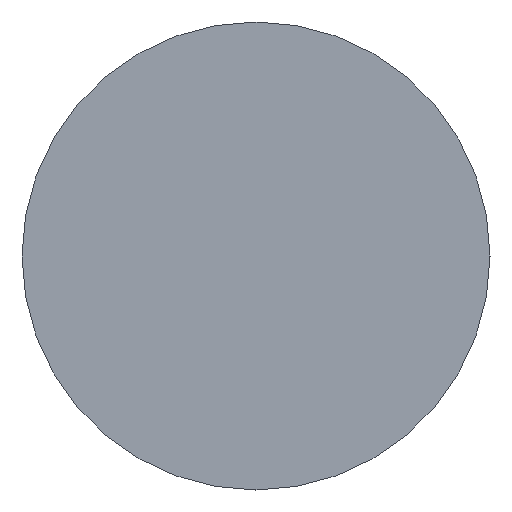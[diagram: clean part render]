
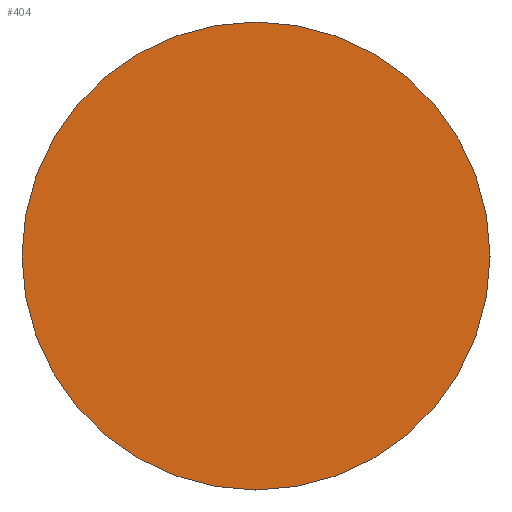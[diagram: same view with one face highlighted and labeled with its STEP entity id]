
A CAD part, left-side view. The second image highlights one B-rep face of the part: STEP entity #404.
In plain terms, the highlighted planar face has unit normal (-1, 0, 0).
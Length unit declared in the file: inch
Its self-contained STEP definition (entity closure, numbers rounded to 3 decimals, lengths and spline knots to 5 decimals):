
#22 = AXIS2_PLACEMENT_3D ( 'NONE', #374, #82, #208 ) ;
#34 = EDGE_CURVE ( 'NONE', #270, #272, #343, .T. ) ;
#82 = DIRECTION ( 'NONE',  ( -1., 0., 0. ) ) ;
#90 = PLANE ( 'NONE',  #242 ) ;
#117 = EDGE_CURVE ( 'NONE', #272, #270, #409, .T. ) ;
#143 = DIRECTION ( 'NONE',  ( -1., 0., 0. ) ) ;
#147 = ORIENTED_EDGE ( 'NONE', *, *, #117, .T. ) ;
#179 = EDGE_LOOP ( 'NONE', ( #200, #147 ) ) ;
#200 = ORIENTED_EDGE ( 'NONE', *, *, #34, .T. ) ;
#208 = DIRECTION ( 'NONE',  ( 0., 0., 1. ) ) ;
#209 = FACE_OUTER_BOUND ( 'NONE', #179, .T. ) ;
#221 = DIRECTION ( 'NONE',  ( 1., 0., 0. ) ) ;
#225 = AXIS2_PLACEMENT_3D ( 'NONE', #261, #143, #325 ) ;
#242 = AXIS2_PLACEMENT_3D ( 'NONE', #378, #221, #307 ) ;
#261 = CARTESIAN_POINT ( 'NONE',  ( -3.5, 0., 0. ) ) ;
#270 = VERTEX_POINT ( 'NONE', #346 ) ;
#272 = VERTEX_POINT ( 'NONE', #339 ) ;
#307 = DIRECTION ( 'NONE',  ( 0., 0., -1. ) ) ;
#325 = DIRECTION ( 'NONE',  ( 0., 0., 1. ) ) ;
#339 = CARTESIAN_POINT ( 'NONE',  ( -3.5, 0., -0.25 ) ) ;
#343 = CIRCLE ( 'NONE', #22, 0.25 ) ;
#346 = CARTESIAN_POINT ( 'NONE',  ( -3.5, 0., 0.25 ) ) ;
#374 = CARTESIAN_POINT ( 'NONE',  ( -3.5, 0., 0. ) ) ;
#378 = CARTESIAN_POINT ( 'NONE',  ( -3.5, 0.25, 0. ) ) ;
#404 = ADVANCED_FACE ( 'NONE', ( #209 ), #90, .F. ) ;
#409 = CIRCLE ( 'NONE', #225, 0.25 ) ;
